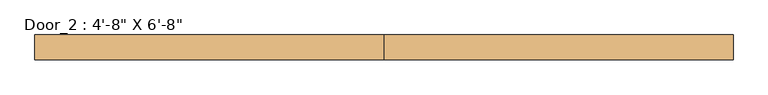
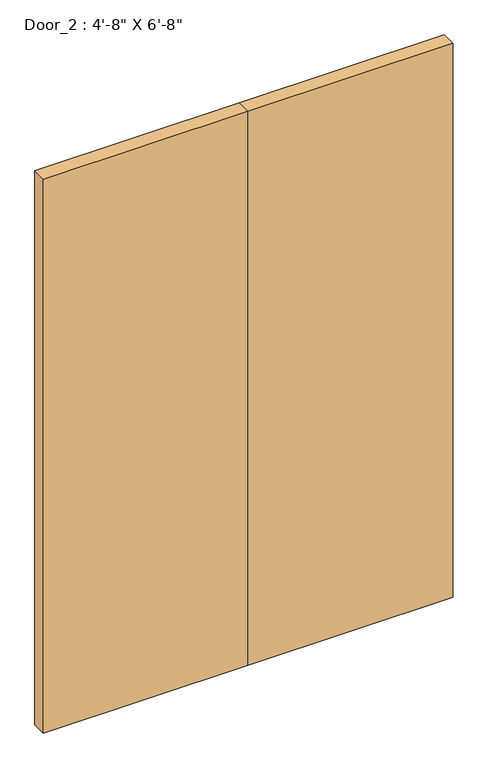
"""IFC4 building model written with IfcOpenShell, lengths in millimetres: door geometry."""

from ifc_helpers import new_model, si_unit, origin, origin_with_axes, place, context, project, spatial, polyline, outline, extrude, source, transform, mapped, element, save


def door_1eac47e7(model_context):
    return source(origin(), model_context, "Body", "SweptSolid", [
        extrude(outline(polyline([(0.0, 95.25), (711.2, 95.25), (711.2, 44.45), (0.0, 44.45), (0.0, 95.25)])), origin_with_axes(), (0.0, 0.0, 1.0), 2032.0),
        extrude(outline(polyline([(-711.2, 95.25), (0.0, 95.25), (0.0, 44.45), (-711.2, 44.45), (-711.2, 95.25)])), origin_with_axes(), (0.0, 0.0, 1.0), 2032.0),
    ])


if __name__ == "__main__":
    model = new_model("IFC4")
    model_context = context("Model", 3, world=origin())
    ifc_project = project(units=[si_unit("LENGTHUNIT", "METRE", prefix="MILLI")], contexts=[model_context])
    site = spatial("IfcSite", under=ifc_project)
    building = spatial("IfcBuilding", under=site)
    placement = place(None, origin())
    door_shape = door_1eac47e7(model_context)
    element("IfcDoor", 1, ObjectType="Door_2 : 4'-8\" X 6'-8\"", at=placement, inside=building, context=model_context, shape_type="MappedRepresentation", body=[
        mapped(door_shape, transform((0.0, 0.0, 0.0), x_axis=(1.0, 0.0, 0.0), y_axis=(0.0, 1.0, 0.0), z_axis=(0.0, 0.0, 1.0))),
    ])
    save(model, "model.ifc")
